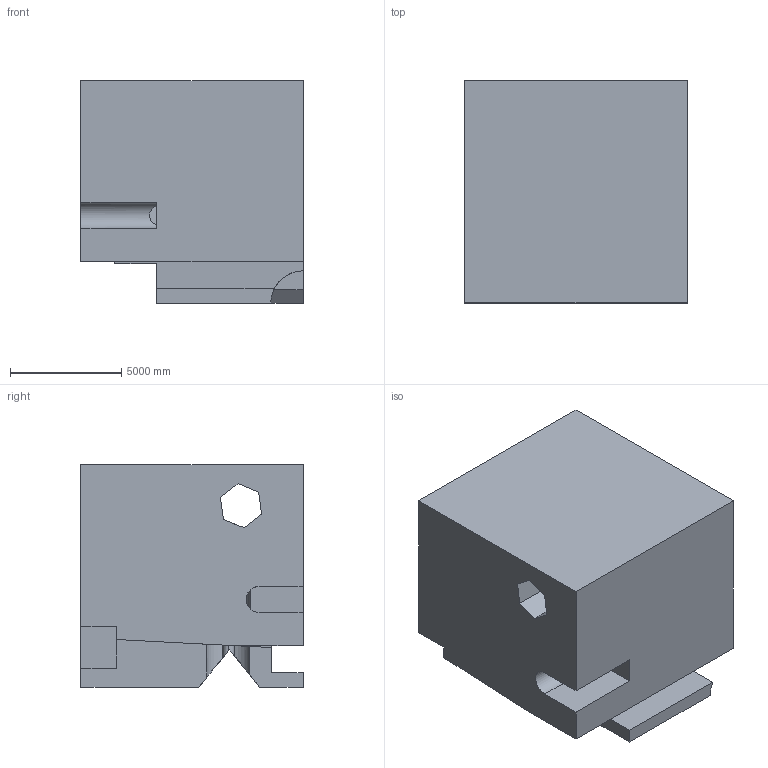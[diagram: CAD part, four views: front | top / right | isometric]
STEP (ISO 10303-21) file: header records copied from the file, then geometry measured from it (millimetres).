
FILE_DESCRIPTION (( 'STEP AP203' ), '1' );
FILE_NAME ('802.STEP', '2022-07-29T13:19:04', ( 'user' ), ( '' ), 'SwSTEP 2.0', 'SolidWorks 2021', '' );
FILE_SCHEMA (( 'CONFIG_CONTROL_DESIGN' ));
Length unit declared in the file: centimetre
Products named in the file (1): 802
Bounding box: 10000 x 10000 x 10000 mm (x, y, z)
Volume: 839882965481.7 mm3; surface area: 720037992.9 mm2
Topology: 1 solids, 1 shells, 42 faces, 129 edges, 86 vertices
Faces by surface type: plane 35, cylinder 7
Entity records: 1608 total; most frequent: CARTESIAN_POINT 401, ORIENTED_EDGE 258, DIRECTION 211, EDGE_CURVE 129, VECTOR 99, LINE 99, VERTEX_POINT 86, AXIS2_PLACEMENT_3D 56
